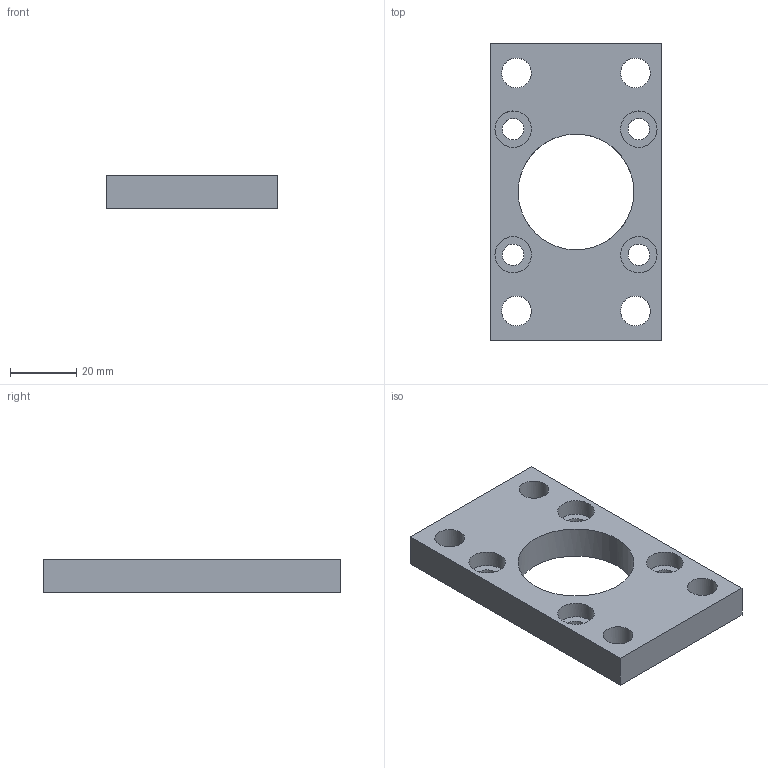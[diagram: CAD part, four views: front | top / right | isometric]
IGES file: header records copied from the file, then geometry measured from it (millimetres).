
Global section: file name: 1325_040_03F; native system: Autodesk Inventor 2014; preprocessor: unknown; author: A. Manieri; organization: Pneumax S.p.A.; date: 20161007.115408; units: millimetre
Bounding box: 52 x 90 x 10 mm (x, y, z)
Volume: 32053.7 mm3; surface area: 12836.1 mm2
Topology: 1 solids, 1 shells, 23 faces, 59 edges, 42 vertices
Faces by surface type: bspline 23
